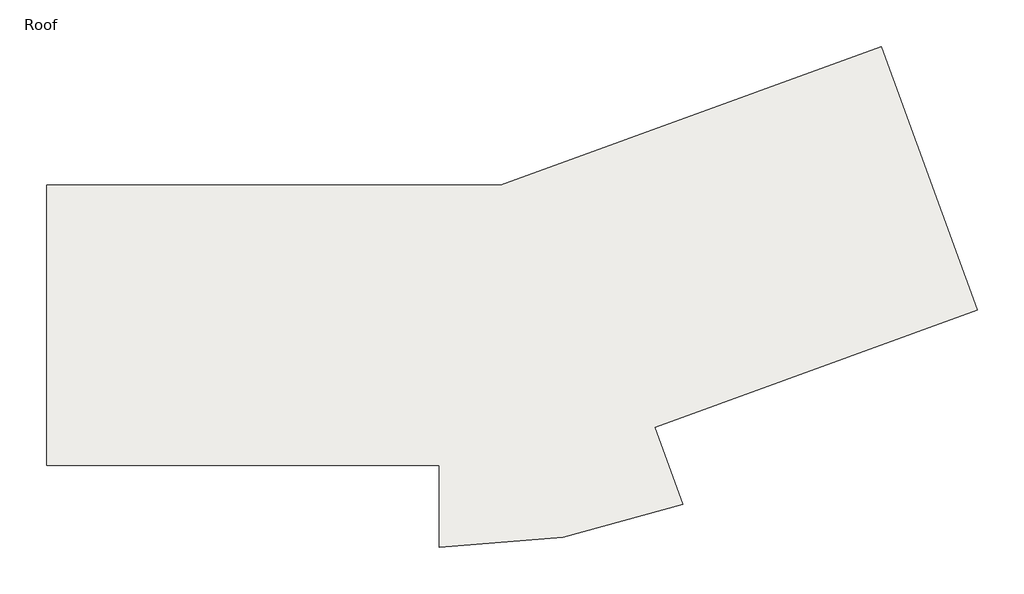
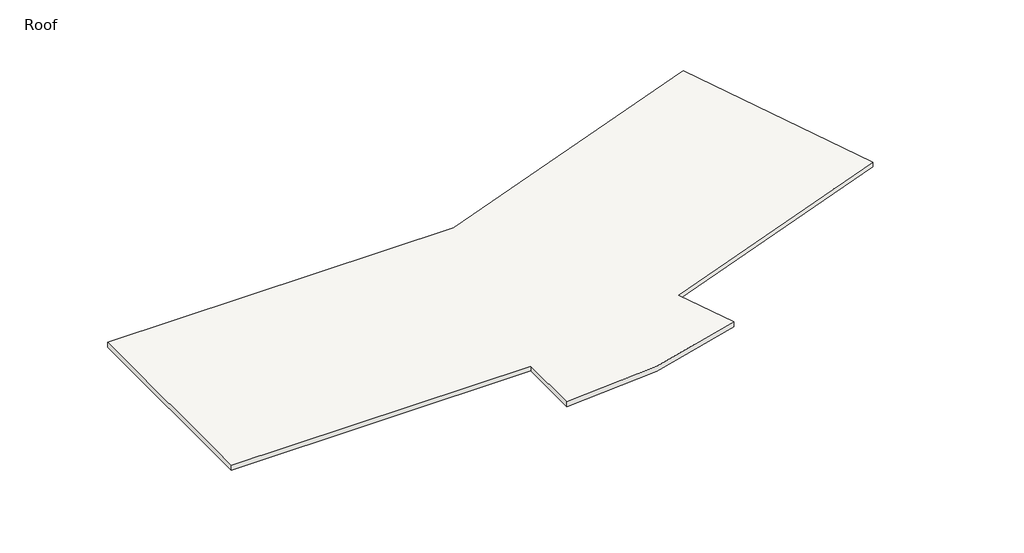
# One storey: 1 roof.
"""IFC4 building model written with IfcOpenShell, lengths in millimetres."""

from ifc_helpers import new_model, si_unit, point, frame, frame_2d, origin, place, context, project, spatial, polyline, circle_curve, trimmed, segment, composite_curve, outline, extrude, element, save

model = new_model("IFC4")

# Units and contexts
model_context = context("Model", 3, world=origin())
ifc_project = project(units=[si_unit("LENGTHUNIT", "METRE", prefix="MILLI")], contexts=[model_context])

# Site, building, storey
site = spatial("IfcSite", under=ifc_project)
building = spatial("IfcBuilding", under=site)
storey = spatial("IfcBuildingStorey", under=building, Name="Roof", Elevation=11700.0)

# Roof
placement = place(None, origin())
element("IfcRoof", 1, ObjectType="Roof_Generic-16\"", at=placement, inside=storey, context=model_context, shape_type="SweptSolid", body=[
    extrude(outline(composite_curve([segment(polyline([(4367.4333362, -499.9999978), (4367.4333362, 16226.4000008), (31415.0898432, 16226.4000008), (54090.0511733, 24479.4109874), (59810.8168982, 8761.7363349), (40578.1499321, 1761.6180343), (42247.3267254, -2824.4075146)]), True, "CONTINUOUS"), segment(trimmed(circle_curve(frame_2d((28251.8766926, 34165.8732259)), 39549.3804108), [point((42247.3267254, -2824.4075146))], [point((27751.8766925, -5380.3464529))], False, "CARTESIAN"), True, "CONTINUOUS"), segment(polyline([(27751.8766925, -5380.3464529), (27751.8766927, -499.9999978), (4367.4333362, -499.9999978)]), True, "CONTINUOUS")], self_intersect=False)), frame((0.0, 0.0, 11700.0), z_axis=(0.0, 0.0, 1.0), x_axis=(1.0, 0.0, 0.0)), (0.0, 0.0, 1.0), 406.4),
])

save(model, "model.ifc")
